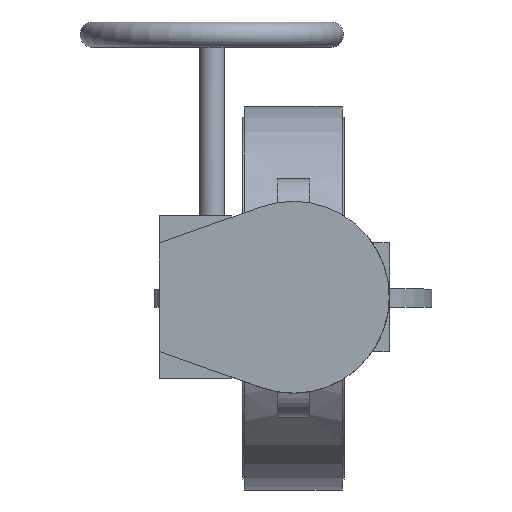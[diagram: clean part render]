
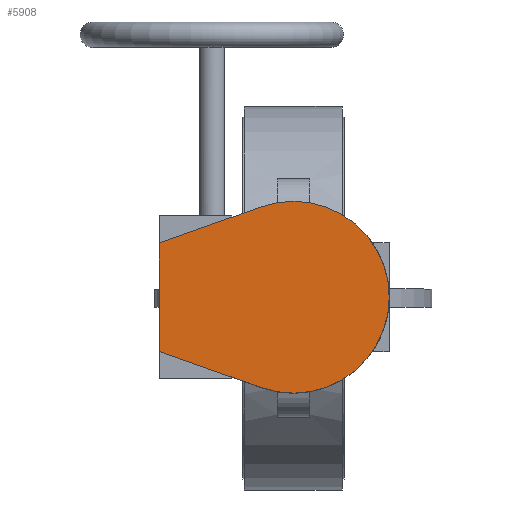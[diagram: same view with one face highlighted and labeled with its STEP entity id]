
A CAD part, top view. The second image highlights one B-rep face of the part: STEP entity #5908.
In plain terms, the highlighted planar face has unit normal (0, 0, 1).
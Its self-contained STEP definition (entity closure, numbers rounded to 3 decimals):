
#5908=ADVANCED_FACE('',(#10779),#10781,.T.);
#10779=FACE_BOUND('',#10780,.T.);
#10780=EDGE_LOOP('',(#14647,#14648,#14649,#14650));
#10781=PLANE('',#10782);
#10782=AXIS2_PLACEMENT_3D('',#10783,#10784,#10785);
#10783=CARTESIAN_POINT('',(0.,0.,291.));
#10784=DIRECTION('',(0.,0.,1.));
#10785=DIRECTION('',(0.,1.,0.));
#14647=ORIENTED_EDGE('',*,*,#16604,.T.);
#14648=ORIENTED_EDGE('',*,*,#16600,.T.);
#14649=ORIENTED_EDGE('',*,*,#16593,.T.);
#14650=ORIENTED_EDGE('',*,*,#16588,.T.);
#16588=EDGE_CURVE('',#19732,#19730,#19733,.T.);
#16593=EDGE_CURVE('',#19740,#19732,#19741,.T.);
#16600=EDGE_CURVE('',#19753,#19740,#19754,.T.);
#16604=EDGE_CURVE('',#19730,#19753,#19759,.T.);
#19730=VERTEX_POINT('',#28283);
#19732=VERTEX_POINT('',#28287);
#19733=LINE('',#28288,#28289);
#19740=VERTEX_POINT('',#28305);
#19741=LINE('',#28306,#28307);
#19753=VERTEX_POINT('',#28332);
#19754=LINE('',#28333,#28334);
#19759=CIRCLE('',#28346,53.);
#28283=CARTESIAN_POINT('',(-17.708,-49.954,291.));
#28287=CARTESIAN_POINT('',(-74.,-30.,291.));
#28288=CARTESIAN_POINT('',(-74.,-30.,291.));
#28289=VECTOR('',#28290,1.);
#28290=DIRECTION('',(0.943,-0.334,0.));
#28305=CARTESIAN_POINT('',(-74.,30.,291.));
#28306=CARTESIAN_POINT('',(-74.,30.,291.));
#28307=VECTOR('',#28308,1.);
#28308=DIRECTION('',(0.,-1.,0.));
#28332=CARTESIAN_POINT('',(-17.708,49.954,291.));
#28333=CARTESIAN_POINT('',(-17.708,49.954,291.));
#28334=VECTOR('',#28335,1.);
#28335=DIRECTION('',(-0.943,-0.334,0.));
#28346=AXIS2_PLACEMENT_3D('',#28347,#28348,#28349);
#28347=CARTESIAN_POINT('',(0.,0.,291.));
#28348=DIRECTION('',(0.,0.,1.));
#28349=DIRECTION('',(-0.334,-0.943,0.));
